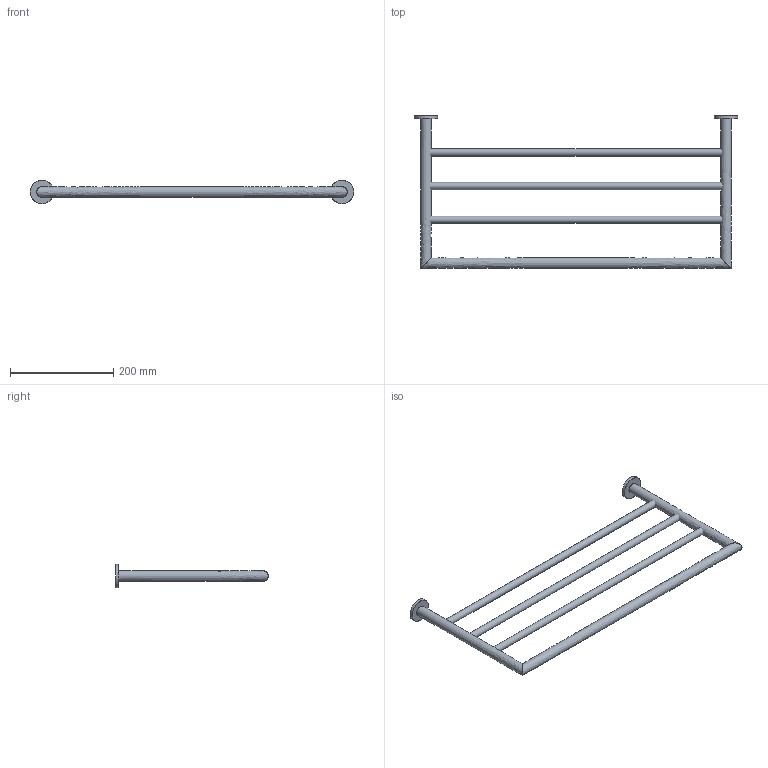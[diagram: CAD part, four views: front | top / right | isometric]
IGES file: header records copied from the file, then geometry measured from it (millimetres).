
Global section: file name: /Users/f/Desktop/I'/AE813.igs; native system: Rhinoceros ( Jul 22 2010 ); preprocessor: Trout Lake IGES 012 Jul 22 2010; date: 100728.070248; units: millimetre
Bounding box: 625 x 295 x 45 mm (x, y, z)
Surface area: 159619.6 mm2 (no closed solid volume)
Topology: 0 solids, 0 shells, 24 faces, 1169 edges, 1168 vertices
Faces by surface type: bspline 24
